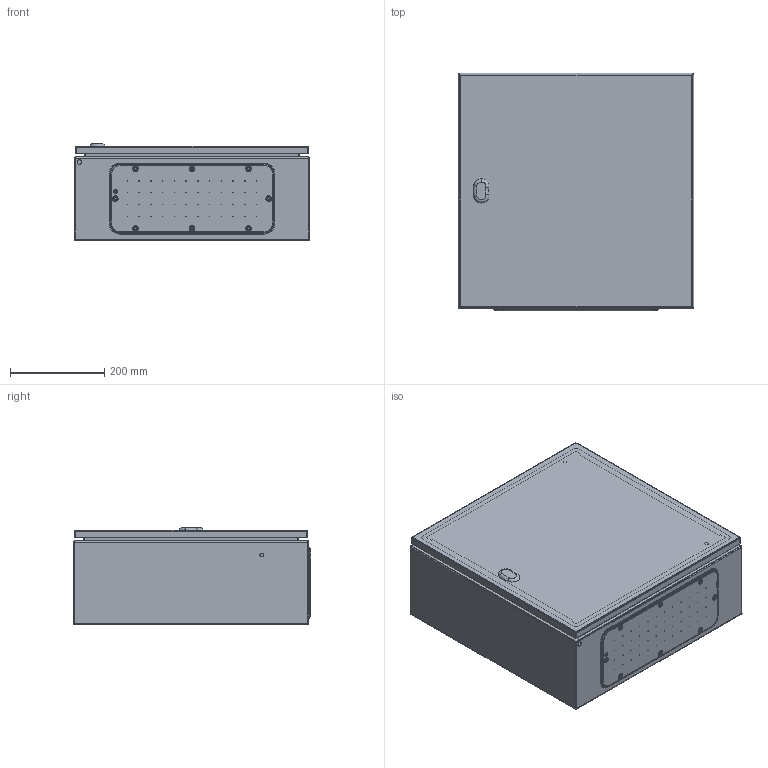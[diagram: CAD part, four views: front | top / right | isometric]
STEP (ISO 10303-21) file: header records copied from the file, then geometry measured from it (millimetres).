
FILE_DESCRIPTION (( 'STEP AP203' ), '1' );
FILE_NAME ('0500x0500x0200 dx.step', '2021-09-07T06:40:56', ( '' ), ( '' ), 'SwSTEP 2.0', 'SolidWorks 2021', '' );
FILE_SCHEMA (( 'CONFIG_CONTROL_DESIGN' ));
Length unit declared in the file: millimetre
Products named in the file (7): AR_ECOR_Piastra_11; AR_ECOR_porta_singola_0500x0500; AR_ECOR_involucro_0500x0500x0200; 0500x0500x0200 dx; AR_ECOR_flangia IC_04; AR_ECOR_chiusura_std_STD; AR_ECOR_montaggio_porta_singola_0500x0500
Assembly tree (6 placements, depth 3):
  0500x0500x0200 dx
    AR_ECOR_involucro_0500x0500x0200
    AR_ECOR_montaggio_porta_singola_0500x0500
      AR_ECOR_porta_singola_0500x0500
      AR_ECOR_chiusura_std_STD
    AR_ECOR_flangia IC_04
    AR_ECOR_Piastra_11
Bounding box: 500 x 504 x 205 mm (x, y, z)
Volume: 2014393.6 mm3; surface area: 2411417.6 mm2
Topology: 5 solids, 5 shells, 724 faces, 1767 edges, 1110 vertices
Faces by surface type: cylinder 370, plane 209, cone 60, torus 41, bspline 28, sphere 16
Entity records: 23152 total; most frequent: CARTESIAN_POINT 4802, DIRECTION 3938, ORIENTED_EDGE 3494, EDGE_CURVE 1747, AXIS2_PLACEMENT_3D 1581, VERTEX_POINT 1110, EDGE_LOOP 945, CIRCLE 875
